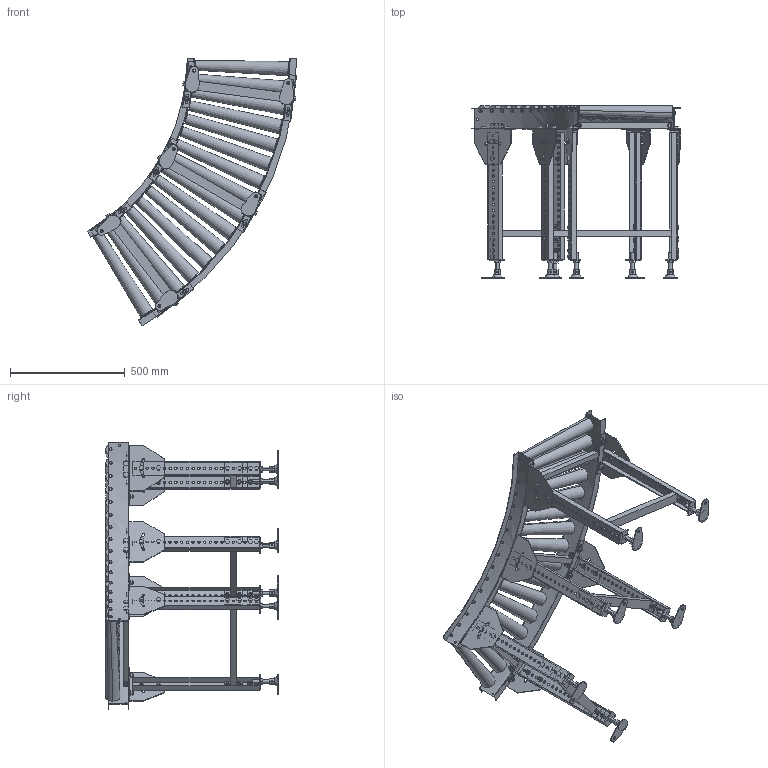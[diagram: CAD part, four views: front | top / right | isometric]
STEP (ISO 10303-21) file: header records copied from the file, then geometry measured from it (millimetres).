
FILE_DESCRIPTION (( 'STEP AP214' ), '1' );
FILE_NAME ('MRT-C9-400-75-60.STEP', '2022-09-28T01:57:08', ( '' ), ( '' ), 'SwSTEP 2.0', 'SolidWorks 2017', '' );
FILE_SCHEMA (( 'AUTOMOTIVE_DESIGN' ));
Length unit declared in the file: millimetre
Products named in the file (1): MRT-C9-400-75-60
Bounding box: 910.05 x 750 x 1164.8 mm (x, y, z)
Volume: 19650824.2 mm3; surface area: 3405335.8 mm2
Topology: 28 solids, 58 shells, 3218 faces, 7716 edges, 4856 vertices
Faces by surface type: plane 2298, cylinder 876, cone 44
Entity records: 135444 total; most frequent: CARTESIAN_POINT 22766, DIRECTION 16450, ORIENTED_EDGE 15432, EDGE_CURVE 7716, AXIS2_PLACEMENT_3D 5737, VECTOR 4976, LINE 4976, VERTEX_POINT 4856
